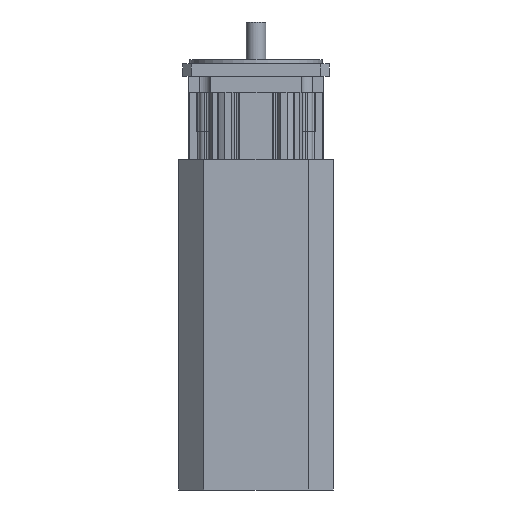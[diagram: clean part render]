
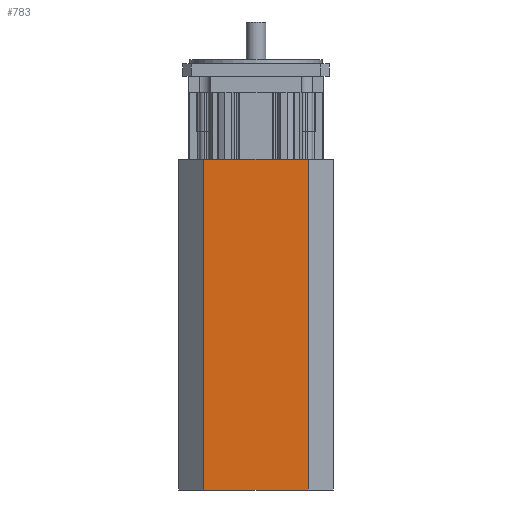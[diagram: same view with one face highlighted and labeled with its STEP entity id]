
A CAD part, front view. The second image highlights one B-rep face of the part: STEP entity #783.
In plain terms, the highlighted planar face has unit normal (0, -1, 0).
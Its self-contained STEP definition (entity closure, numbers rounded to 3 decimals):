
#432=PLANE('',#10341);
#783=ADVANCED_FACE('',(#1578),#432,.T.);
#1578=FACE_OUTER_BOUND('',#2086,.T.);
#2086=EDGE_LOOP('',(#5068,#5069,#5070,#5071));
#2844=LINE('',#15099,#3696);
#2845=LINE('',#15102,#3697);
#2846=LINE('',#15104,#3698);
#2847=LINE('',#15106,#3699);
#3696=VECTOR('',#12090,1.);
#3697=VECTOR('',#12091,1.);
#3698=VECTOR('',#12092,1.);
#3699=VECTOR('',#12093,1.);
#5068=ORIENTED_EDGE('',*,*,#8516,.T.);
#5069=ORIENTED_EDGE('',*,*,#8517,.T.);
#5070=ORIENTED_EDGE('',*,*,#8518,.F.);
#5071=ORIENTED_EDGE('',*,*,#8519,.T.);
#7404=VERTEX_POINT('',#15100);
#7405=VERTEX_POINT('',#15101);
#7406=VERTEX_POINT('',#15103);
#7407=VERTEX_POINT('',#15105);
#8516=EDGE_CURVE('',#7404,#7405,#2844,.T.);
#8517=EDGE_CURVE('',#7405,#7406,#2845,.T.);
#8518=EDGE_CURVE('',#7407,#7406,#2846,.T.);
#8519=EDGE_CURVE('',#7407,#7404,#2847,.T.);
#10341=AXIS2_PLACEMENT_3D('',#15107,#12094,#12095);
#12090=DIRECTION('',(1.,0.,0.));
#12091=DIRECTION('',(0.,0.,1.));
#12092=DIRECTION('',(1.,0.,0.));
#12093=DIRECTION('',(0.,0.,-1.));
#12094=DIRECTION('',(0.,-1.,0.));
#12095=DIRECTION('',(0.,0.,-1.));
#15099=CARTESIAN_POINT('',(-55.35,-55.35,-185.));
#15100=CARTESIAN_POINT('',(-37.35,-55.35,-185.));
#15101=CARTESIAN_POINT('',(37.35,-55.35,-185.));
#15102=CARTESIAN_POINT('',(37.35,-55.35,52.));
#15103=CARTESIAN_POINT('',(37.35,-55.35,52.));
#15104=CARTESIAN_POINT('',(-55.35,-55.35,52.));
#15105=CARTESIAN_POINT('',(-37.35,-55.35,52.));
#15106=CARTESIAN_POINT('',(-37.35,-55.35,52.));
#15107=CARTESIAN_POINT('',(-55.35,-55.35,52.));
